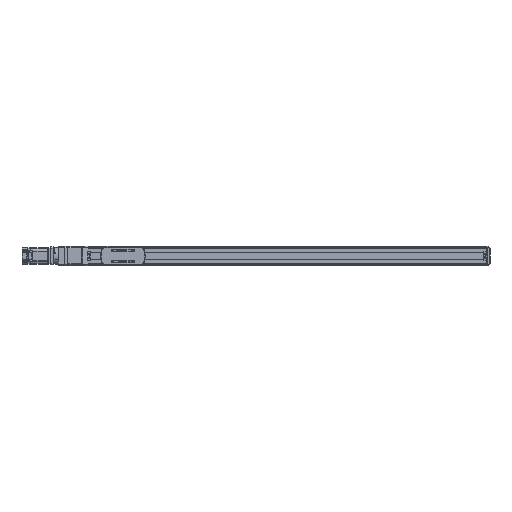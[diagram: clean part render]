
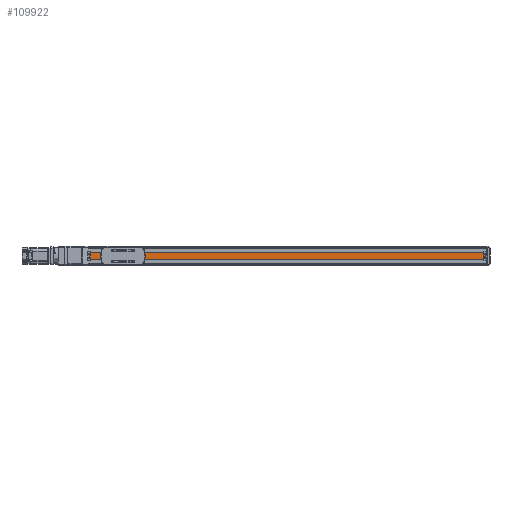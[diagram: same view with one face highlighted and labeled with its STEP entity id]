
A CAD part, top view. The second image highlights one B-rep face of the part: STEP entity #109922.
In plain terms, the highlighted planar face has unit normal (0, 0, 1) as drawn and (0, 1, 0) by its records, which use the part's own axes.
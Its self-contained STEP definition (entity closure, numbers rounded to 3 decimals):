
#109922 = ADVANCED_FACE('',(#109923),#109937,.T.);
#109923 = FACE_BOUND('',#109924,.T.);
#109924 = EDGE_LOOP('',(#109925,#109960,#109988,#110016));
#109925 = ORIENTED_EDGE('',*,*,#109926,.F.);
#109926 = EDGE_CURVE('',#109927,#109929,#109931,.T.);
#109927 = VERTEX_POINT('',#109928);
#109928 = CARTESIAN_POINT('',(-1330.5,18.,-13.));
#109929 = VERTEX_POINT('',#109930);
#109930 = CARTESIAN_POINT('',(-21.5,18.,-13.));
#109931 = SURFACE_CURVE('',#109932,(#109936,#109948),.PCURVE_S1.);
#109932 = LINE('',#109933,#109934);
#109933 = CARTESIAN_POINT('',(-1330.5,18.,-13.));
#109934 = VECTOR('',#109935,1.);
#109935 = DIRECTION('',(1.,0.,0.));
#109936 = PCURVE('',#109937,#109942);
#109937 = PLANE('',#109938);
#109938 = AXIS2_PLACEMENT_3D('',#109939,#109940,#109941);
#109939 = CARTESIAN_POINT('',(-1340.5,18.,-26.583));
#109940 = DIRECTION('',(0.,1.,0.));
#109941 = DIRECTION('',(0.,-0.,1.));
#109942 = DEFINITIONAL_REPRESENTATION('',(#109943),#109947);
#109943 = LINE('',#109944,#109945);
#109944 = CARTESIAN_POINT('',(13.583,10.));
#109945 = VECTOR('',#109946,1.);
#109946 = DIRECTION('',(0.,1.));
#109947 = ( GEOMETRIC_REPRESENTATION_CONTEXT(2) 
PARAMETRIC_REPRESENTATION_CONTEXT() REPRESENTATION_CONTEXT('2D SPACE',''
  ) );
#109948 = PCURVE('',#109949,#109954);
#109949 = PLANE('',#109950);
#109950 = AXIS2_PLACEMENT_3D('',#109951,#109952,#109953);
#109951 = CARTESIAN_POINT('',(-1330.5,18.,-13.));
#109952 = DIRECTION('',(0.,0.,1.));
#109953 = DIRECTION('',(1.,0.,-0.));
#109954 = DEFINITIONAL_REPRESENTATION('',(#109955),#109959);
#109955 = LINE('',#109956,#109957);
#109956 = CARTESIAN_POINT('',(0.,0.));
#109957 = VECTOR('',#109958,1.);
#109958 = DIRECTION('',(1.,0.));
#109959 = ( GEOMETRIC_REPRESENTATION_CONTEXT(2) 
PARAMETRIC_REPRESENTATION_CONTEXT() REPRESENTATION_CONTEXT('2D SPACE',''
  ) );
#109960 = ORIENTED_EDGE('',*,*,#109961,.T.);
#109961 = EDGE_CURVE('',#109927,#109962,#109964,.T.);
#109962 = VERTEX_POINT('',#109963);
#109963 = CARTESIAN_POINT('',(-1330.5,18.,13.));
#109964 = SURFACE_CURVE('',#109965,(#109969,#109976),.PCURVE_S1.);
#109965 = LINE('',#109966,#109967);
#109966 = CARTESIAN_POINT('',(-1330.5,18.,-26.583));
#109967 = VECTOR('',#109968,1.);
#109968 = DIRECTION('',(0.,0.,1.));
#109969 = PCURVE('',#109937,#109970);
#109970 = DEFINITIONAL_REPRESENTATION('',(#109971),#109975);
#109971 = LINE('',#109972,#109973);
#109972 = CARTESIAN_POINT('',(0.,10.));
#109973 = VECTOR('',#109974,1.);
#109974 = DIRECTION('',(1.,0.));
#109975 = ( GEOMETRIC_REPRESENTATION_CONTEXT(2) 
PARAMETRIC_REPRESENTATION_CONTEXT() REPRESENTATION_CONTEXT('2D SPACE',''
  ) );
#109976 = PCURVE('',#109977,#109982);
#109977 = PLANE('',#109978);
#109978 = AXIS2_PLACEMENT_3D('',#109979,#109980,#109981);
#109979 = CARTESIAN_POINT('',(-1330.5,0.,0.));
#109980 = DIRECTION('',(1.,0.,0.));
#109981 = DIRECTION('',(0.,0.,-1.));
#109982 = DEFINITIONAL_REPRESENTATION('',(#109983),#109987);
#109983 = LINE('',#109984,#109985);
#109984 = CARTESIAN_POINT('',(26.583,18.));
#109985 = VECTOR('',#109986,1.);
#109986 = DIRECTION('',(-1.,0.));
#109987 = ( GEOMETRIC_REPRESENTATION_CONTEXT(2) 
PARAMETRIC_REPRESENTATION_CONTEXT() REPRESENTATION_CONTEXT('2D SPACE',''
  ) );
#109988 = ORIENTED_EDGE('',*,*,#109989,.T.);
#109989 = EDGE_CURVE('',#109962,#109990,#109992,.T.);
#109990 = VERTEX_POINT('',#109991);
#109991 = CARTESIAN_POINT('',(-21.5,18.,13.));
#109992 = SURFACE_CURVE('',#109993,(#109997,#110004),.PCURVE_S1.);
#109993 = LINE('',#109994,#109995);
#109994 = CARTESIAN_POINT('',(-1330.5,18.,13.));
#109995 = VECTOR('',#109996,1.);
#109996 = DIRECTION('',(1.,0.,0.));
#109997 = PCURVE('',#109937,#109998);
#109998 = DEFINITIONAL_REPRESENTATION('',(#109999),#110003);
#109999 = LINE('',#110000,#110001);
#110000 = CARTESIAN_POINT('',(39.583,10.));
#110001 = VECTOR('',#110002,1.);
#110002 = DIRECTION('',(0.,1.));
#110003 = ( GEOMETRIC_REPRESENTATION_CONTEXT(2) 
PARAMETRIC_REPRESENTATION_CONTEXT() REPRESENTATION_CONTEXT('2D SPACE',''
  ) );
#110004 = PCURVE('',#110005,#110010);
#110005 = PLANE('',#110006);
#110006 = AXIS2_PLACEMENT_3D('',#110007,#110008,#110009);
#110007 = CARTESIAN_POINT('',(-1330.5,15.,13.));
#110008 = DIRECTION('',(0.,0.,-1.));
#110009 = DIRECTION('',(-1.,0.,0.));
#110010 = DEFINITIONAL_REPRESENTATION('',(#110011),#110015);
#110011 = LINE('',#110012,#110013);
#110012 = CARTESIAN_POINT('',(0.,3.));
#110013 = VECTOR('',#110014,1.);
#110014 = DIRECTION('',(-1.,0.));
#110015 = ( GEOMETRIC_REPRESENTATION_CONTEXT(2) 
PARAMETRIC_REPRESENTATION_CONTEXT() REPRESENTATION_CONTEXT('2D SPACE',''
  ) );
#110016 = ORIENTED_EDGE('',*,*,#110017,.T.);
#110017 = EDGE_CURVE('',#109990,#109929,#110018,.T.);
#110018 = SURFACE_CURVE('',#110019,(#110023,#110030),.PCURVE_S1.);
#110019 = LINE('',#110020,#110021);
#110020 = CARTESIAN_POINT('',(-21.5,18.,-26.583));
#110021 = VECTOR('',#110022,1.);
#110022 = DIRECTION('',(0.,0.,-1.));
#110023 = PCURVE('',#109937,#110024);
#110024 = DEFINITIONAL_REPRESENTATION('',(#110025),#110029);
#110025 = LINE('',#110026,#110027);
#110026 = CARTESIAN_POINT('',(0.,1319.));
#110027 = VECTOR('',#110028,1.);
#110028 = DIRECTION('',(-1.,0.));
#110029 = ( GEOMETRIC_REPRESENTATION_CONTEXT(2) 
PARAMETRIC_REPRESENTATION_CONTEXT() REPRESENTATION_CONTEXT('2D SPACE',''
  ) );
#110030 = PCURVE('',#110031,#110036);
#110031 = PLANE('',#110032);
#110032 = AXIS2_PLACEMENT_3D('',#110033,#110034,#110035);
#110033 = CARTESIAN_POINT('',(-21.5,0.,0.));
#110034 = DIRECTION('',(1.,0.,0.));
#110035 = DIRECTION('',(0.,0.,-1.));
#110036 = DEFINITIONAL_REPRESENTATION('',(#110037),#110041);
#110037 = LINE('',#110038,#110039);
#110038 = CARTESIAN_POINT('',(26.583,18.));
#110039 = VECTOR('',#110040,1.);
#110040 = DIRECTION('',(1.,0.));
#110041 = ( GEOMETRIC_REPRESENTATION_CONTEXT(2) 
PARAMETRIC_REPRESENTATION_CONTEXT() REPRESENTATION_CONTEXT('2D SPACE',''
  ) );
